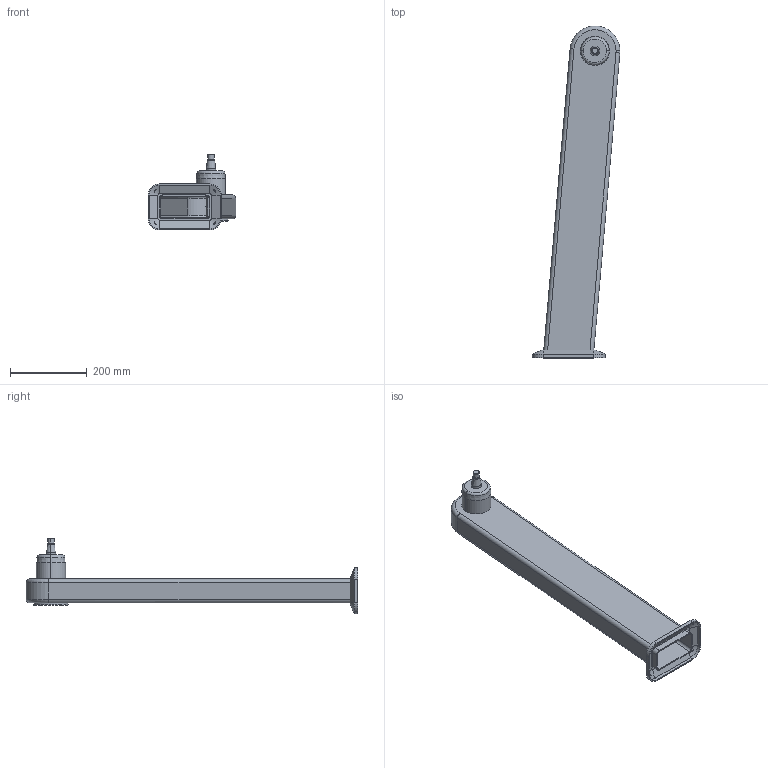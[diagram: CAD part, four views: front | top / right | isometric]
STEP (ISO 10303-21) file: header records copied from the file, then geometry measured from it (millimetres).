
FILE_DESCRIPTION (( 'STEP AP214' ), '1' );
FILE_NAME ('WP710_H800_+05.STEP', '2014-06-27T07:55:40', ( '' ), ( '' ), 'SwSTEP 2.0', 'SolidWorks 2014', '' );
FILE_SCHEMA (( 'AUTOMOTIVE_DESIGN' ));
Length unit declared in the file: millimetre
Products named in the file (1): WP710_H800_+05
Bounding box: 228.74 x 864.94 x 198 mm (x, y, z)
Volume: 1347392.4 mm3; surface area: 683423.5 mm2
Topology: 1 solids, 1 shells, 114 faces, 256 edges, 156 vertices
Faces by surface type: cylinder 42, plane 40, cone 20, torus 12
Entity records: 3285 total; most frequent: CARTESIAN_POINT 680, DIRECTION 570, ORIENTED_EDGE 512, EDGE_CURVE 256, AXIS2_PLACEMENT_3D 221, VERTEX_POINT 156, LINE 128, VECTOR 128
